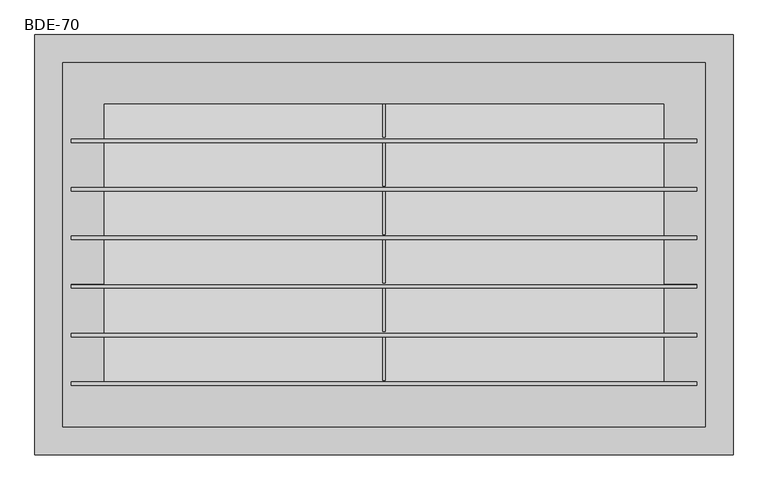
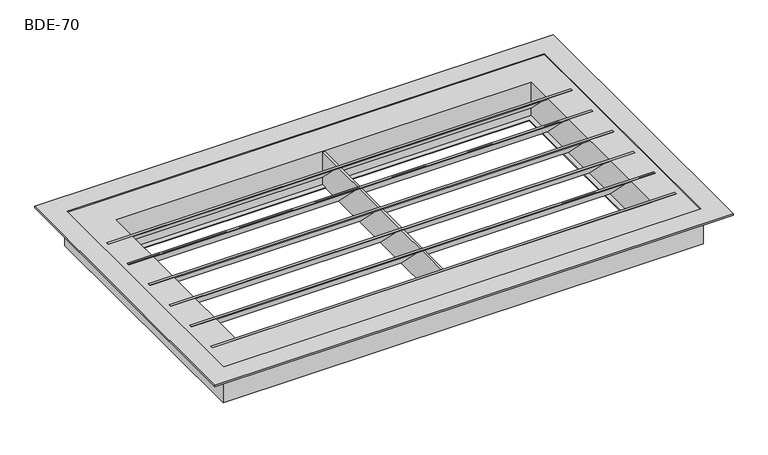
"""IFC4 building model written with IfcOpenShell, lengths in millimetres: air terminal geometry, NLRS_57_AIR_FB_Stalen-roosterdeuren BDE_SMA : BDE-70."""

import ifcopenshell
import ifcopenshell.guid

model = None  # the IFC model being written
_history = None  # IfcOwnerHistory: only IFC2X3 demands one
_inside = {}  # id of a spatial element -> (the spatial element, [elements in it])
_under = {}  # id of a project, library or spatial element -> (it, [spatial elements below it])
_declared = {}  # id of a project -> (the project, [libraries it declares])
_typed = {}  # id of a type object -> (the type object, [elements of that type])
_made_of = {}  # id of a material, layer set ... -> (it, [elements and type objects made of it])


def new_model(schema):
    """Start an empty IFC model of exactly this schema.

    Asked for "IFC4X3", IfcOpenShell would pick the latest addendum, in which some entities
    have other attributes; the version numbers below select the first issue.
    IFC2X3 requires an IfcOwnerHistory on every rooted entity: one is made here for all.
    """
    global model, _history
    if schema == "IFC4X3":
        model = ifcopenshell.file(schema_version=(4, 3, 0, 0))
    else:
        model = ifcopenshell.file(schema=schema)
    _inside.clear()
    _under.clear()
    _declared.clear()
    _typed.clear()
    _made_of.clear()
    _history = None
    if model.schema == "IFC2X3":
        org = make("IfcOrganization", Name="unknown")
        user = make(
            "IfcPersonAndOrganization",
            ThePerson=make("IfcPerson", FamilyName="unknown"),
            TheOrganization=org,
        )
        app = make(
            "IfcApplication",
            ApplicationDeveloper=org,
            Version="unknown",
            ApplicationFullName="unknown",
            ApplicationIdentifier="unknown",
        )
        _history = make(
            "IfcOwnerHistory",
            OwningUser=user,
            OwningApplication=app,
            ChangeAction="ADDED",
            CreationDate=0,
        )
    return model


def make(cls, **values):
    """One entity of the class cls with the attributes given. An attribute that is None is left unset."""
    return model.create_entity(
        cls, **{name: value for name, value in values.items() if value is not None}
    )


def rooted(cls, **values):
    """An entity with a GlobalId (a new one), such as an element, a storey or a relation."""
    return make(cls, GlobalId=ifcopenshell.guid.new(), OwnerHistory=_history, **values)


def si_unit(unit_type, name, prefix=None):
    """IfcSIUnit, for example si_unit("LENGTHUNIT", "METRE", prefix="MILLI")."""
    return make("IfcSIUnit", UnitType=unit_type, Prefix=prefix, Name=name)


def assignment(units):
    """IfcUnitAssignment: the units of a project."""
    return None if units is None else make("IfcUnitAssignment", Units=units)


def point(xyz):
    """IfcCartesianPoint."""
    return None if xyz is None else make("IfcCartesianPoint", Coordinates=xyz)


def direction(xyz):
    """IfcDirection."""
    return None if xyz is None else make("IfcDirection", DirectionRatios=xyz)


def frame(location, z_axis=None, x_axis=None):
    """IfcAxis2Placement3D, a coordinate frame: its origin and axes. An axis left out is left unset."""
    return make(
        "IfcAxis2Placement3D",
        Location=point(location),
        Axis=direction(z_axis),
        RefDirection=direction(x_axis),
    )


def origin():
    """The frame at (0, 0, 0) with its axes left unset."""
    return frame((0.0, 0.0, 0.0))


def place(relative_to, where):
    """IfcLocalPlacement: puts the frame where relative to a parent placement (None: the world)."""
    return make(
        "IfcLocalPlacement", PlacementRelTo=relative_to, RelativePlacement=where
    )


def context(
    kind, dimensions, precision=None, world=None, true_north=None, identifier=None
):
    """IfcGeometricRepresentationContext, for example the 3D "Model" context."""
    return make(
        "IfcGeometricRepresentationContext",
        ContextIdentifier=identifier,
        ContextType=kind,
        CoordinateSpaceDimension=dimensions,
        Precision=precision,
        WorldCoordinateSystem=world,
        TrueNorth=true_north,
    )


def project(units=None, contexts=None):
    """IfcProject with its units and contexts."""
    return rooted(
        "IfcProject",
        Name="project",
        RepresentationContexts=contexts,
        UnitsInContext=assignment(units),
    )


def spatial(cls, under=None, at=None, **own):
    """A site, building, storey or space (cls), placed at a placement, below another one or the project."""
    s = rooted(cls, ObjectPlacement=at, **own)
    if under is not None:
        _under.setdefault(under.id(), (under, []))[1].append(s)
    return s


def polyline(points):
    """IfcPolyline through the points."""
    return make("IfcPolyline", Points=[point(p) for p in points])


def outline(outer, holes=None, kind="AREA"):
    """IfcArbitraryClosedProfileDef: a profile drawn as a closed curve; with holes, ...WithVoids."""
    if holes is None:
        return make("IfcArbitraryClosedProfileDef", ProfileType=kind, OuterCurve=outer)
    return make(
        "IfcArbitraryProfileDefWithVoids",
        ProfileType=kind,
        OuterCurve=outer,
        InnerCurves=holes,
    )


def extrude(swept, where, along, depth):
    """IfcExtrudedAreaSolid: the profile swept, set in the frame where, extruded along a direction by depth."""
    return make(
        "IfcExtrudedAreaSolid",
        SweptArea=swept,
        Position=where,
        ExtrudedDirection=direction(along),
        Depth=depth,
    )


def faces_of(points, faces, orient=None, outer=None):
    """IfcFace entities. A face is a list of loops; a loop is a list of indices into points, from 0.

    orient and outer hold one flag for each loop. By default every Orientation is true, the
    first loop of a face is its IfcFaceOuterBound and the others are IfcFaceBound.
    """
    made = []
    for i, loops in enumerate(faces):
        bounds = []
        for j, loop in enumerate(loops):
            is_outer = j == 0 if outer is None else outer[i][j]
            bounds.append(
                make(
                    "IfcFaceOuterBound" if is_outer else "IfcFaceBound",
                    Bound=make("IfcPolyLoop", Polygon=[points[k] for k in loop]),
                    Orientation=True if orient is None else orient[i][j],
                )
            )
        made.append(make("IfcFace", Bounds=bounds))
    return made


def faceted_brep(points, faces, orient=None, outer=None, voids=None):
    """IfcFacetedBrep: a solid bounded by flat faces; with voids (closed shells), ...WithVoids."""
    shared = [point(p) for p in points]
    hull = make("IfcClosedShell", CfsFaces=faces_of(shared, faces, orient, outer))
    if voids is None:
        return make("IfcFacetedBrep", Outer=hull)
    return make(
        "IfcFacetedBrepWithVoids",
        Outer=hull,
        Voids=[
            make(cls, CfsFaces=faces_of(shared, fs, o, b)) for cls, fs, o, b in voids
        ],
    )


def shape(context_of_items, identifier, shape_type, items):
    """IfcShapeRepresentation: the items that make up one representation, for example the "Body"."""
    return make(
        "IfcShapeRepresentation",
        ContextOfItems=context_of_items,
        RepresentationIdentifier=identifier,
        RepresentationType=shape_type,
        Items=items,
    )


def source(mapping_origin, context_of_items, identifier, shape_type, items):
    """IfcRepresentationMap: a shape defined once, which mapped items show again and again."""
    return make(
        "IfcRepresentationMap",
        MappingOrigin=mapping_origin,
        MappedRepresentation=shape(context_of_items, identifier, shape_type, items),
    )


def transform(
    local_origin,
    x_axis=None,
    y_axis=None,
    z_axis=None,
    scale=None,
    scale2=None,
    scale3=None,
    uniform=True,
):
    """IfcCartesianTransformationOperator3D, or its non-uniform kind. x_axis, y_axis, z_axis: its Axis1, 2, 3."""
    if uniform:
        return make(
            "IfcCartesianTransformationOperator3D",
            Axis1=direction(x_axis),
            Axis2=direction(y_axis),
            LocalOrigin=point(local_origin),
            Scale=scale,
            Axis3=direction(z_axis),
        )
    return make(
        "IfcCartesianTransformationOperator3DnonUniform",
        Axis1=direction(x_axis),
        Axis2=direction(y_axis),
        LocalOrigin=point(local_origin),
        Scale=scale,
        Axis3=direction(z_axis),
        Scale2=scale2,
        Scale3=scale3,
    )


def mapped(mapping_source, mapping_target):
    """IfcMappedItem: shows the shape of a source again, moved by a transform."""
    return make(
        "IfcMappedItem", MappingSource=mapping_source, MappingTarget=mapping_target
    )


def made_of(thing, what):
    """Note that an element or type object is made of a material, layer set ...; save() writes the relation."""
    if what is not None:
        _made_of.setdefault(what.id(), (what, []))[1].append(thing)
    return thing


def element(
    cls,
    number,
    at=None,
    inside=None,
    cuts=None,
    type_object=None,
    material=None,
    context=None,
    identifier="Body",
    shape_type=None,
    held_by="IfcProductDefinitionShape",
    body=None,
    shapes=None,
    **own,
):
    """One element of the class cls, such as IfcWall. Its Tag is "e" and its number.

    at: its placement. inside: the storey or other place that contains it. cuts: it is an
    opening in that element (IfcRelVoidsElement). A single representation is given by context,
    identifier, shape_type and body (its items); several are given by shapes. held_by: the class
    of the entity that holds the representations. save() writes the other relations.
    """
    e = rooted(cls, Tag="e%d" % number, ObjectPlacement=at, **own)
    if body is not None:
        shapes = [shape(context, identifier, shape_type, body)]
    if shapes is not None:
        e.Representation = make(held_by, Representations=shapes)
    if inside is not None:
        _inside.setdefault(inside.id(), (inside, []))[1].append(e)
    if cuts is not None:
        rooted(
            "IfcRelVoidsElement", RelatingBuildingElement=cuts, RelatedOpeningElement=e
        )
    if type_object is not None:
        _typed.setdefault(type_object.id(), (type_object, []))[1].append(e)
    return made_of(e, material)


def aggregate(whole, parts):
    """IfcRelAggregates: a whole, such as a stair, and the parts it consists of."""
    return rooted("IfcRelAggregates", RelatingObject=whole, RelatedObjects=parts)


def save(model, path):
    """Write the relations noted so far, then the file.

    IfcRelAggregates (storeys below a building ...), IfcRelContainedInSpatialStructure (elements
    in a storey), IfcRelDefinesByType, IfcRelAssociatesMaterial and IfcRelDeclares: one each for
    every whole, place, type object, material and project.
    """
    for whole, parts in _under.values():
        aggregate(whole, parts)
    for where, things in _inside.values():
        rooted(
            "IfcRelContainedInSpatialStructure",
            RelatedElements=things,
            RelatingStructure=where,
        )
    for kind, things in _typed.values():
        rooted("IfcRelDefinesByType", RelatedObjects=things, RelatingType=kind)
    for what, things in _made_of.values():
        rooted("IfcRelAssociatesMaterial", RelatedObjects=things, RelatingMaterial=what)
    for by, libraries in _declared.values():
        rooted("IfcRelDeclares", RelatingContext=by, RelatedDefinitions=libraries)
    model.write(path)


def bde_70_a498eccb(model_context):
    return source(origin(), model_context, "Body", "SolidModel", [
        extrude(outline(polyline([(77.5, 1.5428063), (82.5, 1.5428063), (149.0257471, -64.9829408), (157.500244, -64.9829408), (157.500244, -66.4571937), (147.5, -66.4571937), (80.999511, 0.0432953), (77.5, 0.0432953), (77.5, 1.5428063)])), frame((-450.0, 0.0, 0.0), z_axis=(1.0, 0.0, 0.0), x_axis=(0.0, 1.0, 0.0)), (0.0, 0.0, 1.0), 900.0),
        extrude(outline(polyline([(7.5, 1.5428063), (12.5, 1.5428063), (79.0257471, -64.9829408), (87.500244, -64.9829408), (87.500244, -66.4571937), (77.5, -66.4571937), (10.999511, 0.0432953), (7.5, 0.0432953), (7.5, 1.5428063)])), frame((-450.0, 0.0, 0.0), z_axis=(1.0, 0.0, 0.0), x_axis=(0.0, 1.0, 0.0)), (0.0, 0.0, 1.0), 900.0),
        extrude(outline(polyline([(-62.5, 1.5428063), (-57.5, 1.5428063), (9.0257471, -64.9829408), (17.500244, -64.9829408), (17.500244, -66.4571937), (7.5, -66.4571937), (-59.000489, 0.0432953), (-62.5, 0.0432953), (-62.5, 1.5428063)])), frame((-450.0, 0.0, 0.0), z_axis=(1.0, 0.0, 0.0), x_axis=(0.0, 1.0, 0.0)), (0.0, 0.0, 1.0), 900.0),
        extrude(outline(polyline([(147.5, 1.5428063), (152.5, 1.5428063), (202.5, -48.4571937), (202.5, -51.4571937), (150.999511, 0.0432953), (147.5, 0.0432953), (147.5, 1.5428063)])), frame((-450.0, 0.0, 0.0), z_axis=(1.0, 0.0, 0.0), x_axis=(0.0, 1.0, 0.0)), (0.0, 0.0, 1.0), 900.0),
        extrude(outline(polyline([(-132.5, 1.5428063), (-127.5, 1.5428063), (-60.9742529, -64.9829408), (-52.499756, -64.9829408), (-52.499756, -66.4571937), (-62.5, -66.4571937), (-129.000489, 0.0432953), (-132.5, 0.0432953), (-132.5, 1.5428063)])), frame((-450.0, 0.0, 0.0), z_axis=(1.0, 0.0, 0.0), x_axis=(0.0, 1.0, 0.0)), (0.0, 0.0, 1.0), 900.0),
        extrude(outline(polyline([(-202.5, 1.5428063), (-197.5, 1.5428063), (-130.9742529, -64.9829408), (-122.499756, -64.9829408), (-122.499756, -66.4571937), (-132.5, -66.4571937), (-199.000489, 0.0432953), (-202.5, 0.0432953), (-202.5, 1.5428063)])), frame((-450.0, 0.0, 0.0), z_axis=(1.0, 0.0, 0.0), x_axis=(0.0, 1.0, 0.0)), (0.0, 0.0, 1.0), 900.0),
        extrude(outline(polyline([(2.0, 202.5), (2.0, -202.5), (-2.0, -202.5), (-2.0, 202.5), (2.0, 202.5)])), frame((0.0, 0.0, -68.0), z_axis=(0.0, 0.0, 1.0), x_axis=(1.0, 0.0, 0.0)), (0.0, 0.0, 1.0), 68.0),
        faceted_brep([(502.5, 302.5, 0.0), (502.5, 302.5, 3.0), (502.5, -302.5, 3.0), (502.5, -302.5, 0.0), (465.5, 265.5, -68.0), (465.5, 265.5, 0.0), (465.5, -265.5, 0.0), (465.5, -265.5, -68.0), (462.5, 262.5, 3.0), (462.5, 262.5, -68.0), (462.5, -262.5, -68.0), (462.5, -262.5, 3.0), (-502.5, -302.5, 3.0), (-502.5, -302.5, 0.0), (-465.5, -265.5, 0.0), (-465.5, -265.5, -68.0), (-462.5, -262.5, -68.0), (-462.5, -262.5, 3.0), (-502.5, 302.5, 3.0), (-502.5, 302.5, 0.0), (-465.5, 265.5, 0.0), (-465.5, 265.5, -68.0), (-462.5, 262.5, -68.0), (-462.5, 262.5, 3.0)], [[[0, 1, 2, 3]], [[4, 5, 6, 7]], [[8, 9, 10, 11]], [[3, 2, 12, 13]], [[7, 6, 14, 15]], [[11, 10, 16, 17]], [[13, 12, 18, 19]], [[15, 14, 20, 21]], [[17, 16, 22, 23]], [[1, 18, 12, 2], [11, 17, 23, 8]], [[19, 18, 1, 0]], [[3, 13, 19, 0], [5, 20, 14, 6]], [[21, 20, 5, 4]], [[7, 15, 21, 4], [9, 22, 16, 10]], [[23, 22, 9, 8]]]),
        faceted_brep([(-402.5, 202.5, -66.5), (-402.5, 202.5, 1.5428063), (-402.5, -202.5, 1.5428063), (-402.5, -202.5, -66.5), (-392.5, 192.5, -68.0), (-392.5, 192.5, -66.5), (-392.5, -192.5, -66.5), (-392.5, -192.5, -68.0), (-404.0, 204.0, 0.0), (-404.0, 204.0, -68.0), (-404.0, -204.0, -68.0), (-404.0, -204.0, 0.0), (-462.5, 262.5, 1.5428063), (-462.5, 262.5, 0.0), (-462.5, -262.5, 0.0), (-462.5, -262.5, 1.5428063), (402.5, -202.5, 1.5428063), (402.5, -202.5, -66.5), (392.5, -192.5, -66.5), (392.5, -192.5, -68.0), (404.0, -204.0, -68.0), (404.0, -204.0, 0.0), (462.5, -262.5, 0.0), (462.5, -262.5, 1.5428063), (402.5, 202.5, 1.5428063), (402.5, 202.5, -66.5), (392.5, 192.5, -66.5), (392.5, 192.5, -68.0), (404.0, 204.0, -68.0), (404.0, 204.0, 0.0), (462.5, 262.5, 0.0), (462.5, 262.5, 1.5428063)], [[[0, 1, 2, 3]], [[4, 5, 6, 7]], [[8, 9, 10, 11]], [[12, 13, 14, 15]], [[3, 2, 16, 17]], [[7, 6, 18, 19]], [[11, 10, 20, 21]], [[15, 14, 22, 23]], [[17, 16, 24, 25]], [[19, 18, 26, 27]], [[21, 20, 28, 29]], [[23, 22, 30, 31]], [[15, 23, 31, 12], [1, 24, 16, 2]], [[25, 24, 1, 0]], [[3, 17, 25, 0], [5, 26, 18, 6]], [[27, 26, 5, 4]], [[9, 28, 20, 10], [7, 19, 27, 4]], [[29, 28, 9, 8]], [[13, 30, 22, 14], [11, 21, 29, 8]], [[31, 30, 13, 12]]]),
    ])


if __name__ == "__main__":
    model = new_model("IFC4")
    model_context = context("Model", 3, world=origin())
    ifc_project = project(units=[si_unit("LENGTHUNIT", "METRE", prefix="MILLI")], contexts=[model_context])
    site = spatial("IfcSite", under=ifc_project)
    building = spatial("IfcBuilding", under=site)
    placement = place(None, origin())
    bde_70_shape = bde_70_a498eccb(model_context)
    element("IfcAirTerminal", 1, ObjectType="NLRS_57_AIR_FB_Stalen-roosterdeuren BDE_SMA : BDE-70", at=placement, inside=building, context=model_context, shape_type="MappedRepresentation", body=[
        mapped(bde_70_shape, transform((0.0, 0.0, 0.0), x_axis=(1.0, 0.0, 0.0), y_axis=(0.0, 1.0, 0.0), z_axis=(0.0, 0.0, 1.0))),
    ])
    save(model, "model.ifc")
